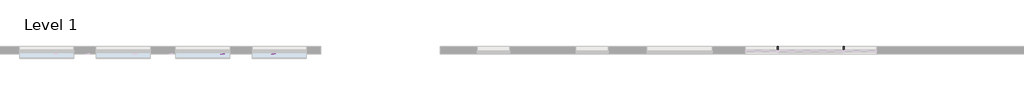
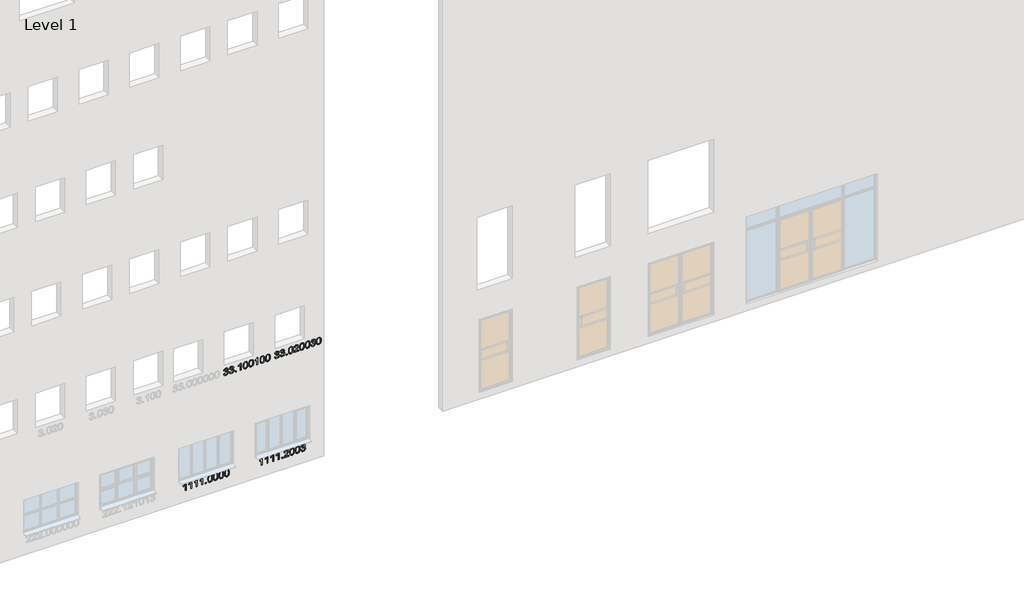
# One storey, part 3 of 3: 6 proxies.
"""IFC4 building model written with IfcOpenShell, lengths in millimetres."""

from ifc_helpers import new_model, si_unit, frame, origin, place, context, project, spatial, polyline, outline, extrude, transform, mapped, element, save
from components import w20054_coupler_standard_fb557c19, w20054_coupler_standard_0fb11666

model = new_model("IFC4")

# Units and contexts
model_context = context("Model", 3, world=origin())
ifc_project = project(units=[si_unit("LENGTHUNIT", "METRE", prefix="MILLI")], contexts=[model_context])

# Site, building, storey
site = spatial("IfcSite", under=ifc_project)
building = spatial("IfcBuilding", under=site)
storey = spatial("IfcBuildingStorey", under=building, Name="Level 1", Elevation=0.0)

# Proxies
placement = place(None, origin())
element("IfcBuildingElementProxy", 1, Name="200mm Arial", ObjectType="200mm Arial", at=placement, inside=storey, context=model_context, shape_type="SweptSolid", body=[
    extrude(outline(polyline([(3021.5066745, -163348.5681121), (2998.8083554, -163342.3509064), (2980.7453494, -163328.6043825), (2968.9363373, -163308.8368566), (2965.0, -163284.5566449), (2969.6107877, -163257.713522), (2983.4431507, -163235.9471706), (3003.8973896, -163221.5261964), (3028.373805, -163216.719205), (3046.3509719, -163219.1227007), (3061.0417262, -163226.3331878), (3071.8574569, -163237.9827843), (3078.2095526, -163253.7036082), (3085.456828, -163241.7351807), (3094.8378188, -163233.1022165), (3105.8497532, -163227.8782922), (3117.9898591, -163226.1369841), (3131.0190131, -163227.9702627), (3143.3246658, -163233.4700985), (3154.0055064, -163242.4341565), (3162.1602239, -163254.6601014), (3167.328966, -163269.1607834), (3169.05188, -163284.9490524), (3165.557001, -163306.8748193), (3155.0723642, -163324.8765116), (3138.2356315, -163338.0344243), (3115.6844652, -163345.4288524), (3112.5452055, -163320.3147748), (3126.2794667, -163315.8634027), (3136.0896532, -163308.0029907), (3141.9757651, -163297.236311), (3143.9378025, -163284.0661356), (3141.9941592, -163270.9204856), (3136.1632296, -163260.423586), (3127.3647186, -163253.5441927), (3116.5183311, -163251.2510616), (3103.4953085, -163254.4148468), (3094.3473095, -163263.9062022), (3088.9394442, -163277.3584205), (3087.1368224, -163292.4047941), (3087.431128, -163296.4269706), (3062.3170505, -163299.2228738), (3065.0639027, -163281.6135889), (3062.4948601, -163265.8191886), (3054.7877323, -163253.0659461), (3043.1565299, -163244.6414484), (3028.8152634, -163241.8332825), (3013.7075762, -163244.6659739), (3001.2486393, -163253.164048), (2992.897718, -163266.4568507), (2990.1140775, -163283.6737281), (2992.1374285, -163298.3460884), (2998.2074814, -163309.597146), (3008.8637966, -163317.8315714), (3024.6459342, -163323.4540345), (3021.5066745, -163348.5681121)])), frame((0.0, 24202.6264647, 0.0), z_axis=(0.0, 1.0, 0.0), x_axis=(0.0, 0.0, 1.0)), (0.0, 0.0, 1.0), 10.0),
    extrude(outline(polyline([(3021.5066745, -163194.7443872), (2998.8083554, -163188.5271814), (2980.7453494, -163174.7806576), (2968.9363373, -163155.0131317), (2965.0, -163130.73292), (2969.6107877, -163103.8897971), (2983.4431507, -163082.1234457), (3003.8973896, -163067.7024715), (3028.373805, -163062.8954801), (3046.3509719, -163065.2989758), (3061.0417262, -163072.5094629), (3071.8574569, -163084.1590594), (3078.2095526, -163099.8798833), (3085.456828, -163087.9114558), (3094.8378188, -163079.2784916), (3105.8497532, -163074.0545673), (3117.9898591, -163072.3132592), (3131.0190131, -163074.1465378), (3143.3246658, -163079.6463736), (3154.0055064, -163088.6104315), (3162.1602239, -163100.8363765), (3167.328966, -163115.3370585), (3169.05188, -163131.1253275), (3165.557001, -163153.0510944), (3155.0723642, -163171.0527867), (3138.2356315, -163184.2106994), (3115.6844652, -163191.6051275), (3112.5452055, -163166.4910499), (3126.2794667, -163162.0396778), (3136.0896532, -163154.1792658), (3141.9757651, -163143.4125861), (3143.9378025, -163130.2424107), (3141.9941592, -163117.0967607), (3136.1632296, -163106.5998611), (3127.3647186, -163099.7204678), (3116.5183311, -163097.4273367), (3103.4953085, -163100.5911219), (3094.3473095, -163110.0824773), (3088.9394442, -163123.5346956), (3087.1368224, -163138.5810692), (3087.431128, -163142.6032457), (3062.3170505, -163145.3991489), (3065.0639027, -163127.789864), (3062.4948601, -163111.9954637), (3054.7877323, -163099.2422212), (3043.1565299, -163090.8177235), (3028.8152634, -163088.0095576), (3013.7075762, -163090.842249), (3001.2486393, -163099.3403231), (2992.897718, -163112.6331258), (2990.1140775, -163129.8500032), (2992.1374285, -163144.5223634), (2998.2074814, -163155.7734211), (3008.8637966, -163164.0078465), (3024.6459342, -163169.6303096), (3021.5066745, -163194.7443872)])), frame((0.0, 24202.6264647, 0.0), z_axis=(0.0, 1.0, 0.0), x_axis=(0.0, 0.0, 1.0)), (0.0, 0.0, 1.0), 10.0),
    extrude(outline(polyline([(-163003.2495459, 24202.6264647), (-163028.3636235, 24202.6264647), (-163028.3636235, 24212.6264647), (-163003.2495459, 24212.6264647), (-163003.2495459, 24202.6264647)])), frame((0.0, 0.0, 2968.1392597), z_axis=(0.0, 0.0, 1.0), x_axis=(1.0, 0.0, 0.0)), (0.0, 0.0, 1.0), 25.1140775),
    extrude(outline(polyline([(2968.1392597, -162868.2613792), (3169.05188, -162868.2613792), (3169.05188, -162884.448187), (3155.8939673, -162893.3202744), (3142.3191217, -162906.7908868), (3118.8237249, -162943.6036118), (3095.0830735, -162943.6036118), (3107.7627396, -162917.1651591), (3124.7098368, -162893.3754567), (2968.1392597, -162893.3754567), (2968.1392597, -162868.2613792)])), frame((0.0, 24202.6264647, 0.0), z_axis=(0.0, 1.0, 0.0), x_axis=(0.0, 0.0, 1.0)), (0.0, 0.0, 1.0), 10.0),
    extrude(outline(polyline([(3066.9768891, -162808.615445), (3018.1098974, -162803.6122499), (2999.2590108, -162797.358256), (2984.1298637, -162788.6026645), (2969.7824659, -162768.7860877), (2965.0, -162742.6909915), (2967.7529836, -162722.3900367), (2976.0119344, -162705.9273174), (2989.8688229, -162693.192469), (3009.4156196, -162684.0751269), (3035.0018123, -162678.5936852), (3066.9768891, -162676.7665379), (3114.1884118, -162681.3282747), (3143.913277, -162693.1004985), (3154.6738253, -162701.7702509), (3162.5771569, -162713.3585337), (3167.4331992, -162727.2154222), (3169.05188, -162742.6909915), (3166.3172905, -162762.8815817), (3158.113522, -162779.3075127), (3144.3118158, -162792.0607552), (3124.7834132, -162801.2332796), (3099.1359068, -162806.7699037), (3066.9768891, -162808.615445)]), holes=[polyline([(3067.02594, -162783.5013675), (3106.0214315, -162780.4602097), (3130.4978469, -162771.3367362), (3140.5778136, -162758.706121), (3143.9378025, -162742.9852971), (3140.1240924, -162726.3815564), (3128.6829624, -162713.2604319), (3105.6412868, -162704.7255696), (3067.02594, -162701.8806155), (3027.5828587, -162704.8236714), (3004.70673, -162713.6528393), (2993.7622407, -162726.7984893), (2990.1140775, -162742.6909915), (2993.7499779, -162758.5834937), (3004.6576791, -162771.7291436), (3027.5215451, -162780.5583115), (3067.02594, -162783.5013675)])]), frame((0.0, 24202.6264647, 0.0), z_axis=(0.0, 1.0, 0.0), x_axis=(0.0, 0.0, 1.0)), (0.0, 0.0, 1.0), 10.0),
    extrude(outline(polyline([(3066.9768891, -162654.7917201), (3018.1098974, -162649.788525), (2999.2590108, -162643.534531), (2984.1298637, -162634.7789396), (2969.7824659, -162614.9623628), (2965.0, -162588.8672666), (2967.7529836, -162568.5663118), (2976.0119344, -162552.1035925), (2989.8688229, -162539.3687441), (3009.4156196, -162530.251402), (3035.0018123, -162524.7699603), (3066.9768891, -162522.942813), (3114.1884118, -162527.5045498), (3143.913277, -162539.2767736), (3154.6738253, -162547.946526), (3162.5771569, -162559.5348088), (3167.4331992, -162573.3916973), (3169.05188, -162588.8672666), (3166.3172905, -162609.0578567), (3158.113522, -162625.4837878), (3144.3118158, -162638.2370303), (3124.7834132, -162647.4095547), (3099.1359068, -162652.9461788), (3066.9768891, -162654.7917201)]), holes=[polyline([(3067.02594, -162629.6776426), (3106.0214315, -162626.6364847), (3130.4978469, -162617.5130113), (3140.5778136, -162604.8823961), (3143.9378025, -162589.1615722), (3140.1240924, -162572.5578314), (3128.6829624, -162559.436707), (3105.6412868, -162550.9018447), (3067.02594, -162548.0568906), (3027.5828587, -162550.9999465), (3004.70673, -162559.8291144), (2993.7622407, -162572.9747644), (2990.1140775, -162588.8672666), (2993.7499779, -162604.7597688), (3004.6576791, -162617.9054187), (3027.5215451, -162626.7345866), (3067.02594, -162629.6776426)])]), frame((0.0, 24202.6264647, 0.0), z_axis=(0.0, 1.0, 0.0), x_axis=(0.0, 0.0, 1.0)), (0.0, 0.0, 1.0), 10.0),
    extrude(outline(polyline([(2968.1392597, -162406.7902044), (3169.05188, -162406.7902044), (3169.05188, -162422.9770122), (3155.8939673, -162431.8490997), (3142.3191217, -162445.319712), (3118.8237249, -162482.132437), (3095.0830735, -162482.132437), (3107.7627396, -162455.6939843), (3124.7098368, -162431.904282), (2968.1392597, -162431.904282), (2968.1392597, -162406.7902044)])), frame((0.0, 24202.6264647, 0.0), z_axis=(0.0, 1.0, 0.0), x_axis=(0.0, 0.0, 1.0)), (0.0, 0.0, 1.0), 10.0),
    extrude(outline(polyline([(3066.9768891, -162347.1442703), (3018.1098974, -162342.1410751), (2999.2590108, -162335.8870812), (2984.1298637, -162327.1314897), (2969.7824659, -162307.3149129), (2965.0, -162281.2198167), (2967.7529836, -162260.918862), (2976.0119344, -162244.4561427), (2989.8688229, -162231.7212943), (3009.4156196, -162222.6039522), (3035.0018123, -162217.1225104), (3066.9768891, -162215.2953632), (3114.1884118, -162219.8570999), (3143.913277, -162231.6293238), (3154.6738253, -162240.2990761), (3162.5771569, -162251.887359), (3167.4331992, -162265.7442475), (3169.05188, -162281.2198167), (3166.3172905, -162301.4104069), (3158.113522, -162317.836338), (3144.3118158, -162330.5895805), (3124.7834132, -162339.7621049), (3099.1359068, -162345.2987289), (3066.9768891, -162347.1442703)]), holes=[polyline([(3067.02594, -162322.0301927), (3106.0214315, -162318.9890349), (3130.4978469, -162309.8655614), (3140.5778136, -162297.2349463), (3143.9378025, -162281.5141223), (3140.1240924, -162264.9103816), (3128.6829624, -162251.7892571), (3105.6412868, -162243.2543948), (3067.02594, -162240.4094407), (3027.5828587, -162243.3524967), (3004.70673, -162252.1816646), (2993.7622407, -162265.3273145), (2990.1140775, -162281.2198167), (2993.7499779, -162297.1123189), (3004.6576791, -162310.2579689), (3027.5215451, -162319.0871368), (3067.02594, -162322.0301927)])]), frame((0.0, 24202.6264647, 0.0), z_axis=(0.0, 1.0, 0.0), x_axis=(0.0, 0.0, 1.0)), (0.0, 0.0, 1.0), 10.0),
    extrude(outline(polyline([(3066.9768891, -162193.3205454), (3018.1098974, -162188.3173502), (2999.2590108, -162182.0633563), (2984.1298637, -162173.3077648), (2969.7824659, -162153.491188), (2965.0, -162127.3960918), (2967.7529836, -162107.095137), (2976.0119344, -162090.6324178), (2989.8688229, -162077.8975694), (3009.4156196, -162068.7802273), (3035.0018123, -162063.2987855), (3066.9768891, -162061.4716383), (3114.1884118, -162066.033375), (3143.913277, -162077.8055989), (3154.6738253, -162086.4753512), (3162.5771569, -162098.0636341), (3167.4331992, -162111.9205226), (3169.05188, -162127.3960918), (3166.3172905, -162147.586682), (3158.113522, -162164.0126131), (3144.3118158, -162176.7658556), (3124.7834132, -162185.93838), (3099.1359068, -162191.475004), (3066.9768891, -162193.3205454)]), holes=[polyline([(3067.02594, -162168.2064678), (3106.0214315, -162165.16531), (3130.4978469, -162156.0418365), (3140.5778136, -162143.4112213), (3143.9378025, -162127.6903974), (3140.1240924, -162111.0866567), (3128.6829624, -162097.9655322), (3105.6412868, -162089.4306699), (3067.02594, -162086.5857158), (3027.5828587, -162089.5287718), (3004.70673, -162098.3579397), (2993.7622407, -162111.5035896), (2990.1140775, -162127.3960918), (2993.7499779, -162143.288594), (3004.6576791, -162156.434244), (3027.5215451, -162165.2634119), (3067.02594, -162168.2064678)])]), frame((0.0, 24202.6264647, 0.0), z_axis=(0.0, 1.0, 0.0), x_axis=(0.0, 0.0, 1.0)), (0.0, 0.0, 1.0), 10.0),
])
element("IfcBuildingElementProxy", 2, Name="200mm Arial", ObjectType="200mm Arial", at=placement, inside=storey, context=model_context, shape_type="SweptSolid", body=[
    extrude(outline(polyline([(3021.5066745, -161948.5681121), (2998.8083554, -161942.3509064), (2980.7453494, -161928.6043825), (2968.9363373, -161908.8368566), (2965.0, -161884.5566449), (2969.6107877, -161857.713522), (2983.4431507, -161835.9471706), (3003.8973896, -161821.5261964), (3028.373805, -161816.719205), (3046.3509719, -161819.1227007), (3061.0417262, -161826.3331878), (3071.8574569, -161837.9827843), (3078.2095526, -161853.7036082), (3085.456828, -161841.7351807), (3094.8378188, -161833.1022165), (3105.8497532, -161827.8782922), (3117.9898591, -161826.1369841), (3131.0190131, -161827.9702627), (3143.3246658, -161833.4700985), (3154.0055064, -161842.4341565), (3162.1602239, -161854.6601014), (3167.328966, -161869.1607834), (3169.05188, -161884.9490524), (3165.557001, -161906.8748193), (3155.0723642, -161924.8765116), (3138.2356315, -161938.0344243), (3115.6844652, -161945.4288524), (3112.5452055, -161920.3147748), (3126.2794667, -161915.8634027), (3136.0896532, -161908.0029907), (3141.9757651, -161897.236311), (3143.9378025, -161884.0661356), (3141.9941592, -161870.9204856), (3136.1632296, -161860.423586), (3127.3647186, -161853.5441927), (3116.5183311, -161851.2510616), (3103.4953085, -161854.4148468), (3094.3473095, -161863.9062022), (3088.9394442, -161877.3584205), (3087.1368224, -161892.4047941), (3087.431128, -161896.4269706), (3062.3170505, -161899.2228738), (3065.0639027, -161881.6135889), (3062.4948601, -161865.8191886), (3054.7877323, -161853.0659461), (3043.1565299, -161844.6414484), (3028.8152634, -161841.8332825), (3013.7075762, -161844.6659739), (3001.2486393, -161853.164048), (2992.897718, -161866.4568507), (2990.1140775, -161883.6737281), (2992.1374285, -161898.3460884), (2998.2074814, -161909.597146), (3008.8637966, -161917.8315714), (3024.6459342, -161923.4540345), (3021.5066745, -161948.5681121)])), frame((0.0, 24202.6264647, 0.0), z_axis=(0.0, 1.0, 0.0), x_axis=(0.0, 0.0, 1.0)), (0.0, 0.0, 1.0), 10.0),
    extrude(outline(polyline([(3021.5066745, -161794.7443872), (2998.8083554, -161788.5271814), (2980.7453494, -161774.7806576), (2968.9363373, -161755.0131317), (2965.0, -161730.73292), (2969.6107877, -161703.8897971), (2983.4431507, -161682.1234457), (3003.8973896, -161667.7024715), (3028.373805, -161662.8954801), (3046.3509719, -161665.2989758), (3061.0417262, -161672.5094629), (3071.8574569, -161684.1590594), (3078.2095526, -161699.8798833), (3085.456828, -161687.9114558), (3094.8378188, -161679.2784916), (3105.8497532, -161674.0545673), (3117.9898591, -161672.3132592), (3131.0190131, -161674.1465378), (3143.3246658, -161679.6463736), (3154.0055064, -161688.6104315), (3162.1602239, -161700.8363765), (3167.328966, -161715.3370585), (3169.05188, -161731.1253275), (3165.557001, -161753.0510944), (3155.0723642, -161771.0527867), (3138.2356315, -161784.2106994), (3115.6844652, -161791.6051275), (3112.5452055, -161766.4910499), (3126.2794667, -161762.0396778), (3136.0896532, -161754.1792658), (3141.9757651, -161743.4125861), (3143.9378025, -161730.2424107), (3141.9941592, -161717.0967607), (3136.1632296, -161706.5998611), (3127.3647186, -161699.7204678), (3116.5183311, -161697.4273367), (3103.4953085, -161700.5911219), (3094.3473095, -161710.0824773), (3088.9394442, -161723.5346956), (3087.1368224, -161738.5810692), (3087.431128, -161742.6032457), (3062.3170505, -161745.3991489), (3065.0639027, -161727.789864), (3062.4948601, -161711.9954637), (3054.7877323, -161699.2422212), (3043.1565299, -161690.8177235), (3028.8152634, -161688.0095576), (3013.7075762, -161690.842249), (3001.2486393, -161699.3403231), (2992.897718, -161712.6331258), (2990.1140775, -161729.8500032), (2992.1374285, -161744.5223634), (2998.2074814, -161755.7734211), (3008.8637966, -161764.0078465), (3024.6459342, -161769.6303096), (3021.5066745, -161794.7443872)])), frame((0.0, 24202.6264647, 0.0), z_axis=(0.0, 1.0, 0.0), x_axis=(0.0, 0.0, 1.0)), (0.0, 0.0, 1.0), 10.0),
    extrude(outline(polyline([(-161603.2495459, 24202.6264647), (-161628.3636235, 24202.6264647), (-161628.3636235, 24212.6264647), (-161603.2495459, 24212.6264647), (-161603.2495459, 24202.6264647)])), frame((0.0, 0.0, 2968.1392597), z_axis=(0.0, 0.0, 1.0), x_axis=(1.0, 0.0, 0.0)), (0.0, 0.0, 1.0), 25.1140775),
    extrude(outline(polyline([(3066.9768891, -161562.4391699), (3018.1098974, -161557.4359748), (2999.2590108, -161551.1819809), (2984.1298637, -161542.4263894), (2969.7824659, -161522.6098126), (2965.0, -161496.5147164), (2967.7529836, -161476.2137616), (2976.0119344, -161459.7510423), (2989.8688229, -161447.0161939), (3009.4156196, -161437.8988518), (3035.0018123, -161432.4174101), (3066.9768891, -161430.5902629), (3114.1884118, -161435.1519996), (3143.913277, -161446.9242234), (3154.6738253, -161455.5939758), (3162.5771569, -161467.1822587), (3167.4331992, -161481.0391471), (3169.05188, -161496.5147164), (3166.3172905, -161516.7053066), (3158.113522, -161533.1312377), (3144.3118158, -161545.8844802), (3124.7834132, -161555.0570046), (3099.1359068, -161560.5936286), (3066.9768891, -161562.4391699)]), holes=[polyline([(3067.02594, -161537.3250924), (3106.0214315, -161534.2839346), (3130.4978469, -161525.1604611), (3140.5778136, -161512.5298459), (3143.9378025, -161496.809022), (3140.1240924, -161480.2052813), (3128.6829624, -161467.0841568), (3105.6412868, -161458.5492945), (3067.02594, -161455.7043404), (3027.5828587, -161458.6473964), (3004.70673, -161467.4765642), (2993.7622407, -161480.6222142), (2990.1140775, -161496.5147164), (2993.7499779, -161512.4072186), (3004.6576791, -161525.5528686), (3027.5215451, -161534.3820364), (3067.02594, -161537.3250924)])]), frame((0.0, 24202.6264647, 0.0), z_axis=(0.0, 1.0, 0.0), x_axis=(0.0, 0.0, 1.0)), (0.0, 0.0, 1.0), 10.0),
    extrude(outline(polyline([(2993.2533372, -161279.9057976), (2993.2533372, -161378.5472233), (3006.0311052, -161367.2164578), (3030.1886895, -161338.3254585), (3064.5979188, -161302.3465993), (3089.221487, -161287.5086922), (3113.0357149, -161283.0450573), (3134.9369563, -161287.1837298), (3152.9631741, -161299.5997471), (3165.0297035, -161319.115887), (3169.05188, -161344.5549269), (3165.4343737, -161369.8100259), (3154.5818548, -161389.3629539), (3136.8376799, -161402.526998), (3112.5452055, -161408.615445), (3109.4059458, -161383.5013675), (3123.8391828, -161380.7851721), (3134.765278, -161372.9308915), (3141.6446714, -161360.7601288), (3143.9378025, -161345.0944872), (3141.5894891, -161330.1768723), (3134.5445488, -161318.3862543), (3124.0905688, -161310.7159147), (3111.5151359, -161308.1591349), (3097.4865692, -161310.8691989), (3083.065595, -161318.999391), (3041.2251494, -161362.3604155), (3012.1134208, -161393.8020633), (2985.4542389, -161409.0569034), (2968.1392597, -161411.7547047), (2968.1392597, -161279.9057976), (2993.2533372, -161279.9057976)])), frame((0.0, 24202.6264647, 0.0), z_axis=(0.0, 1.0, 0.0), x_axis=(0.0, 0.0, 1.0)), (0.0, 0.0, 1.0), 10.0),
    extrude(outline(polyline([(3066.9768891, -161254.7917201), (3018.1098974, -161249.788525), (2999.2590108, -161243.534531), (2984.1298637, -161234.7789396), (2969.7824659, -161214.9623628), (2965.0, -161188.8672666), (2967.7529836, -161168.5663118), (2976.0119344, -161152.1035925), (2989.8688229, -161139.3687441), (3009.4156196, -161130.251402), (3035.0018123, -161124.7699603), (3066.9768891, -161122.942813), (3114.1884118, -161127.5045498), (3143.913277, -161139.2767736), (3154.6738253, -161147.946526), (3162.5771569, -161159.5348088), (3167.4331992, -161173.3916973), (3169.05188, -161188.8672666), (3166.3172905, -161209.0578567), (3158.113522, -161225.4837878), (3144.3118158, -161238.2370303), (3124.7834132, -161247.4095547), (3099.1359068, -161252.9461788), (3066.9768891, -161254.7917201)]), holes=[polyline([(3067.02594, -161229.6776426), (3106.0214315, -161226.6364847), (3130.4978469, -161217.5130113), (3140.5778136, -161204.8823961), (3143.9378025, -161189.1615722), (3140.1240924, -161172.5578314), (3128.6829624, -161159.436707), (3105.6412868, -161150.9018447), (3067.02594, -161148.0568906), (3027.5828587, -161150.9999465), (3004.70673, -161159.8291144), (2993.7622407, -161172.9747644), (2990.1140775, -161188.8672666), (2993.7499779, -161204.7597688), (3004.6576791, -161217.9054187), (3027.5215451, -161226.7345866), (3067.02594, -161229.6776426)])]), frame((0.0, 24202.6264647, 0.0), z_axis=(0.0, 1.0, 0.0), x_axis=(0.0, 0.0, 1.0)), (0.0, 0.0, 1.0), 10.0),
    extrude(outline(polyline([(3066.9768891, -161100.9679952), (3018.1098974, -161095.9648001), (2999.2590108, -161089.7108061), (2984.1298637, -161080.9552146), (2969.7824659, -161061.1386378), (2965.0, -161035.0435416), (2967.7529836, -161014.7425869), (2976.0119344, -160998.2798676), (2989.8688229, -160985.5450192), (3009.4156196, -160976.4276771), (3035.0018123, -160970.9462354), (3066.9768891, -160969.1190881), (3114.1884118, -160973.6808249), (3143.913277, -160985.4530487), (3154.6738253, -160994.1228011), (3162.5771569, -161005.7110839), (3167.4331992, -161019.5679724), (3169.05188, -161035.0435416), (3166.3172905, -161055.2341318), (3158.113522, -161071.6600629), (3144.3118158, -161084.4133054), (3124.7834132, -161093.5858298), (3099.1359068, -161099.1224538), (3066.9768891, -161100.9679952)]), holes=[polyline([(3067.02594, -161075.8539176), (3106.0214315, -161072.8127598), (3130.4978469, -161063.6892863), (3140.5778136, -161051.0586712), (3143.9378025, -161035.3378472), (3140.1240924, -161018.7341065), (3128.6829624, -161005.612982), (3105.6412868, -160997.0781197), (3067.02594, -160994.2331657), (3027.5828587, -160997.1762216), (3004.70673, -161006.0053895), (2993.7622407, -161019.1510395), (2990.1140775, -161035.0435416), (2993.7499779, -161050.9360438), (3004.6576791, -161064.0816938), (3027.5215451, -161072.9108617), (3067.02594, -161075.8539176)])]), frame((0.0, 24202.6264647, 0.0), z_axis=(0.0, 1.0, 0.0), x_axis=(0.0, 0.0, 1.0)), (0.0, 0.0, 1.0), 10.0),
    extrude(outline(polyline([(3021.5066745, -160947.1442703), (2998.8083554, -160940.9270645), (2980.7453494, -160927.1805407), (2968.9363373, -160907.4130148), (2965.0, -160883.1328031), (2969.6107877, -160856.2896802), (2983.4431507, -160834.5233288), (3003.8973896, -160820.1023546), (3028.373805, -160815.2953632), (3046.3509719, -160817.6988589), (3061.0417262, -160824.909346), (3071.8574569, -160836.5589425), (3078.2095526, -160852.2797664), (3085.456828, -160840.3113389), (3094.8378188, -160831.6783747), (3105.8497532, -160826.4544504), (3117.9898591, -160824.7131423), (3131.0190131, -160826.5464209), (3143.3246658, -160832.0462567), (3154.0055064, -160841.0103147), (3162.1602239, -160853.2362596), (3167.328966, -160867.7369416), (3169.05188, -160883.5252106), (3165.557001, -160905.4509775), (3155.0723642, -160923.4526698), (3138.2356315, -160936.6105825), (3115.6844652, -160944.0050106), (3112.5452055, -160918.890933), (3126.2794667, -160914.4395609), (3136.0896532, -160906.5791489), (3141.9757651, -160895.8124692), (3143.9378025, -160882.6422938), (3141.9941592, -160869.4966438), (3136.1632296, -160858.9997442), (3127.3647186, -160852.1203509), (3116.5183311, -160849.8272198), (3103.4953085, -160852.991005), (3094.3473095, -160862.4823604), (3088.9394442, -160875.9345787), (3087.1368224, -160890.9809523), (3087.431128, -160895.0031288), (3062.3170505, -160897.799032), (3065.0639027, -160880.1897471), (3062.4948601, -160864.3953468), (3054.7877323, -160851.6421043), (3043.1565299, -160843.2176066), (3028.8152634, -160840.4094407), (3013.7075762, -160843.2421321), (3001.2486393, -160851.7402062), (2992.897718, -160865.0330089), (2990.1140775, -160882.2498863), (2992.1374285, -160896.9222466), (2998.2074814, -160908.1733042), (3008.8637966, -160916.4077296), (3024.6459342, -160922.0301927), (3021.5066745, -160947.1442703)])), frame((0.0, 24202.6264647, 0.0), z_axis=(0.0, 1.0, 0.0), x_axis=(0.0, 0.0, 1.0)), (0.0, 0.0, 1.0), 10.0),
    extrude(outline(polyline([(3066.9768891, -160793.3205454), (3018.1098974, -160788.3173502), (2999.2590108, -160782.0633563), (2984.1298637, -160773.3077648), (2969.7824659, -160753.491188), (2965.0, -160727.3960918), (2967.7529836, -160707.095137), (2976.0119344, -160690.6324178), (2989.8688229, -160677.8975694), (3009.4156196, -160668.7802273), (3035.0018123, -160663.2987855), (3066.9768891, -160661.4716383), (3114.1884118, -160666.033375), (3143.913277, -160677.8055989), (3154.6738253, -160686.4753512), (3162.5771569, -160698.0636341), (3167.4331992, -160711.9205226), (3169.05188, -160727.3960918), (3166.3172905, -160747.586682), (3158.113522, -160764.0126131), (3144.3118158, -160776.7658556), (3124.7834132, -160785.93838), (3099.1359068, -160791.475004), (3066.9768891, -160793.3205454)]), holes=[polyline([(3067.02594, -160768.2064678), (3106.0214315, -160765.16531), (3130.4978469, -160756.0418365), (3140.5778136, -160743.4112213), (3143.9378025, -160727.6903974), (3140.1240924, -160711.0866567), (3128.6829624, -160697.9655322), (3105.6412868, -160689.4306699), (3067.02594, -160686.5857158), (3027.5828587, -160689.5287718), (3004.70673, -160698.3579397), (2993.7622407, -160711.5035896), (2990.1140775, -160727.3960918), (2993.7499779, -160743.288594), (3004.6576791, -160756.434244), (3027.5215451, -160765.2634119), (3067.02594, -160768.2064678)])]), frame((0.0, 24202.6264647, 0.0), z_axis=(0.0, 1.0, 0.0), x_axis=(0.0, 0.0, 1.0)), (0.0, 0.0, 1.0), 10.0),
])
element("IfcBuildingElementProxy", 3, Name="200mm Arial", ObjectType="200mm Arial", at=placement, inside=storey, context=model_context, shape_type="SweptSolid", body=[
    extrude(outline(polyline([(3.1392597, -164383.3903213), (204.05188, -164383.3903213), (204.05188, -164399.5771291), (190.8939673, -164408.4492165), (177.3191217, -164421.9198289), (153.8237249, -164458.7325539), (130.0830735, -164458.7325539), (142.7627396, -164432.2941012), (159.7098368, -164408.5043988), (3.1392597, -164408.5043988), (3.1392597, -164383.3903213)])), frame((0.0, 24202.6264647, 0.0), z_axis=(0.0, 1.0, 0.0), x_axis=(0.0, 0.0, 1.0)), (0.0, 0.0, 1.0), 10.0),
    extrude(outline(polyline([(3.1392597, -164229.5665964), (204.05188, -164229.5665964), (204.05188, -164245.7534042), (190.8939673, -164254.6254916), (177.3191217, -164268.096104), (153.8237249, -164304.908829), (130.0830735, -164304.908829), (142.7627396, -164278.4703763), (159.7098368, -164254.6806739), (3.1392597, -164254.6806739), (3.1392597, -164229.5665964)])), frame((0.0, 24202.6264647, 0.0), z_axis=(0.0, 1.0, 0.0), x_axis=(0.0, 0.0, 1.0)), (0.0, 0.0, 1.0), 10.0),
    extrude(outline(polyline([(3.1392597, -164075.7428715), (204.05188, -164075.7428715), (204.05188, -164091.9296793), (190.8939673, -164100.8017667), (177.3191217, -164114.2723791), (153.8237249, -164151.0851041), (130.0830735, -164151.0851041), (142.7627396, -164124.6466514), (159.7098368, -164100.856949), (3.1392597, -164100.856949), (3.1392597, -164075.7428715)])), frame((0.0, 24202.6264647, 0.0), z_axis=(0.0, 1.0, 0.0), x_axis=(0.0, 0.0, 1.0)), (0.0, 0.0, 1.0), 10.0),
    extrude(outline(polyline([(3.1392597, -163921.9191466), (204.05188, -163921.9191466), (204.05188, -163938.1059543), (190.8939673, -163946.9780418), (177.3191217, -163960.4486542), (153.8237249, -163997.2613792), (130.0830735, -163997.2613792), (142.7627396, -163970.8229264), (159.7098368, -163947.0332241), (3.1392597, -163947.0332241), (3.1392597, -163921.9191466)])), frame((0.0, 24202.6264647, 0.0), z_axis=(0.0, 1.0, 0.0), x_axis=(0.0, 0.0, 1.0)), (0.0, 0.0, 1.0), 10.0),
    extrude(outline(polyline([(-163824.6020961, 24202.6264647), (-163849.7161736, 24202.6264647), (-163849.7161736, 24212.6264647), (-163824.6020961, 24212.6264647), (-163824.6020961, 24202.6264647)])), frame((0.0, 0.0, 3.1392597), z_axis=(0.0, 0.0, 1.0), x_axis=(1.0, 0.0, 0.0)), (0.0, 0.0, 1.0), 25.1140775),
    extrude(outline(polyline([(101.9768891, -163783.7917201), (53.1098974, -163778.788525), (34.2590108, -163772.534531), (19.1298637, -163763.7789396), (4.7824659, -163743.9623628), (0.0, -163717.8672666), (2.7529836, -163697.5663118), (11.0119344, -163681.1035925), (24.8688229, -163668.3687441), (44.4156196, -163659.251402), (70.0018123, -163653.7699603), (101.9768891, -163651.942813), (149.1884118, -163656.5045498), (178.913277, -163668.2767736), (189.6738253, -163676.946526), (197.5771569, -163688.5348088), (202.4331992, -163702.3916973), (204.05188, -163717.8672666), (201.3172905, -163738.0578567), (193.113522, -163754.4837878), (179.3118158, -163767.2370303), (159.7834132, -163776.4095547), (134.1359068, -163781.9461788), (101.9768891, -163783.7917201)]), holes=[polyline([(102.02594, -163758.6776426), (141.0214315, -163755.6364847), (165.4978469, -163746.5130113), (175.5778136, -163733.8823961), (178.9378025, -163718.1615722), (175.1240924, -163701.5578314), (163.6829624, -163688.436707), (140.6412868, -163679.9018447), (102.02594, -163677.0568906), (62.5828587, -163679.9999465), (39.70673, -163688.8291144), (28.7622407, -163701.9747644), (25.1140775, -163717.8672666), (28.7499779, -163733.7597688), (39.6576791, -163746.9054187), (62.5215451, -163755.7345866), (102.02594, -163758.6776426)])]), frame((0.0, 24202.6264647, 0.0), z_axis=(0.0, 1.0, 0.0), x_axis=(0.0, 0.0, 1.0)), (0.0, 0.0, 1.0), 10.0),
    extrude(outline(polyline([(101.9768891, -163629.9679952), (53.1098974, -163624.9648001), (34.2590108, -163618.7108061), (19.1298637, -163609.9552146), (4.7824659, -163590.1386378), (0.0, -163564.0435416), (2.7529836, -163543.7425869), (11.0119344, -163527.2798676), (24.8688229, -163514.5450192), (44.4156196, -163505.4276771), (70.0018123, -163499.9462354), (101.9768891, -163498.1190881), (149.1884118, -163502.6808249), (178.913277, -163514.4530487), (189.6738253, -163523.1228011), (197.5771569, -163534.7110839), (202.4331992, -163548.5679724), (204.05188, -163564.0435416), (201.3172905, -163584.2341318), (193.113522, -163600.6600629), (179.3118158, -163613.4133054), (159.7834132, -163622.5858298), (134.1359068, -163628.1224538), (101.9768891, -163629.9679952)]), holes=[polyline([(102.02594, -163604.8539176), (141.0214315, -163601.8127598), (165.4978469, -163592.6892863), (175.5778136, -163580.0586712), (178.9378025, -163564.3378472), (175.1240924, -163547.7341065), (163.6829624, -163534.612982), (140.6412868, -163526.0781197), (102.02594, -163523.2331657), (62.5828587, -163526.1762216), (39.70673, -163535.0053895), (28.7622407, -163548.1510395), (25.1140775, -163564.0435416), (28.7499779, -163579.9360438), (39.6576791, -163593.0816938), (62.5215451, -163601.9108617), (102.02594, -163604.8539176)])]), frame((0.0, 24202.6264647, 0.0), z_axis=(0.0, 1.0, 0.0), x_axis=(0.0, 0.0, 1.0)), (0.0, 0.0, 1.0), 10.0),
    extrude(outline(polyline([(101.9768891, -163476.1442703), (53.1098974, -163471.1410751), (34.2590108, -163464.8870812), (19.1298637, -163456.1314897), (4.7824659, -163436.3149129), (0.0, -163410.2198167), (2.7529836, -163389.918862), (11.0119344, -163373.4561427), (24.8688229, -163360.7212943), (44.4156196, -163351.6039522), (70.0018123, -163346.1225104), (101.9768891, -163344.2953632), (149.1884118, -163348.8570999), (178.913277, -163360.6293238), (189.6738253, -163369.2990761), (197.5771569, -163380.887359), (202.4331992, -163394.7442475), (204.05188, -163410.2198167), (201.3172905, -163430.4104069), (193.113522, -163446.836338), (179.3118158, -163459.5895805), (159.7834132, -163468.7621049), (134.1359068, -163474.2987289), (101.9768891, -163476.1442703)]), holes=[polyline([(102.02594, -163451.0301927), (141.0214315, -163447.9890349), (165.4978469, -163438.8655614), (175.5778136, -163426.2349463), (178.9378025, -163410.5141223), (175.1240924, -163393.9103816), (163.6829624, -163380.7892571), (140.6412868, -163372.2543948), (102.02594, -163369.4094407), (62.5828587, -163372.3524967), (39.70673, -163381.1816646), (28.7622407, -163394.3273145), (25.1140775, -163410.2198167), (28.7499779, -163426.1123189), (39.6576791, -163439.2579689), (62.5215451, -163448.0871368), (102.02594, -163451.0301927)])]), frame((0.0, 24202.6264647, 0.0), z_axis=(0.0, 1.0, 0.0), x_axis=(0.0, 0.0, 1.0)), (0.0, 0.0, 1.0), 10.0),
    extrude(outline(polyline([(101.9768891, -163322.3205454), (53.1098974, -163317.3173502), (34.2590108, -163311.0633563), (19.1298637, -163302.3077648), (4.7824659, -163282.491188), (0.0, -163256.3960918), (2.7529836, -163236.095137), (11.0119344, -163219.6324178), (24.8688229, -163206.8975694), (44.4156196, -163197.7802273), (70.0018123, -163192.2987855), (101.9768891, -163190.4716383), (149.1884118, -163195.033375), (178.913277, -163206.8055989), (189.6738253, -163215.4753512), (197.5771569, -163227.0636341), (202.4331992, -163240.9205226), (204.05188, -163256.3960918), (201.3172905, -163276.586682), (193.113522, -163293.0126131), (179.3118158, -163305.7658556), (159.7834132, -163314.93838), (134.1359068, -163320.475004), (101.9768891, -163322.3205454)]), holes=[polyline([(102.02594, -163297.2064678), (141.0214315, -163294.16531), (165.4978469, -163285.0418365), (175.5778136, -163272.4112213), (178.9378025, -163256.6903974), (175.1240924, -163240.0866567), (163.6829624, -163226.9655322), (140.6412868, -163218.4306699), (102.02594, -163215.5857158), (62.5828587, -163218.5287718), (39.70673, -163227.3579397), (28.7622407, -163240.5035896), (25.1140775, -163256.3960918), (28.7499779, -163272.288594), (39.6576791, -163285.434244), (62.5215451, -163294.2634119), (102.02594, -163297.2064678)])]), frame((0.0, 24202.6264647, 0.0), z_axis=(0.0, 1.0, 0.0), x_axis=(0.0, 0.0, 1.0)), (0.0, 0.0, 1.0), 10.0),
])
element("IfcBuildingElementProxy", 4, Name="200mm Arial", ObjectType="200mm Arial", at=placement, inside=storey, context=model_context, shape_type="SweptSolid", body=[
    extrude(outline(polyline([(3.1392597, -162283.3903213), (204.05188, -162283.3903213), (204.05188, -162299.5771291), (190.8939673, -162308.4492165), (177.3191217, -162321.9198289), (153.8237249, -162358.7325539), (130.0830735, -162358.7325539), (142.7627396, -162332.2941012), (159.7098368, -162308.5043988), (3.1392597, -162308.5043988), (3.1392597, -162283.3903213)])), frame((0.0, 24202.6264647, 0.0), z_axis=(0.0, 1.0, 0.0), x_axis=(0.0, 0.0, 1.0)), (0.0, 0.0, 1.0), 10.0),
    extrude(outline(polyline([(3.1392597, -162129.5665964), (204.05188, -162129.5665964), (204.05188, -162145.7534042), (190.8939673, -162154.6254916), (177.3191217, -162168.096104), (153.8237249, -162204.908829), (130.0830735, -162204.908829), (142.7627396, -162178.4703763), (159.7098368, -162154.6806739), (3.1392597, -162154.6806739), (3.1392597, -162129.5665964)])), frame((0.0, 24202.6264647, 0.0), z_axis=(0.0, 1.0, 0.0), x_axis=(0.0, 0.0, 1.0)), (0.0, 0.0, 1.0), 10.0),
    extrude(outline(polyline([(3.1392597, -161975.7428715), (204.05188, -161975.7428715), (204.05188, -161991.9296793), (190.8939673, -162000.8017667), (177.3191217, -162014.2723791), (153.8237249, -162051.0851041), (130.0830735, -162051.0851041), (142.7627396, -162024.6466514), (159.7098368, -162000.856949), (3.1392597, -162000.856949), (3.1392597, -161975.7428715)])), frame((0.0, 24202.6264647, 0.0), z_axis=(0.0, 1.0, 0.0), x_axis=(0.0, 0.0, 1.0)), (0.0, 0.0, 1.0), 10.0),
    extrude(outline(polyline([(3.1392597, -161821.9191466), (204.05188, -161821.9191466), (204.05188, -161838.1059543), (190.8939673, -161846.9780418), (177.3191217, -161860.4486542), (153.8237249, -161897.2613792), (130.0830735, -161897.2613792), (142.7627396, -161870.8229264), (159.7098368, -161847.0332241), (3.1392597, -161847.0332241), (3.1392597, -161821.9191466)])), frame((0.0, 24202.6264647, 0.0), z_axis=(0.0, 1.0, 0.0), x_axis=(0.0, 0.0, 1.0)), (0.0, 0.0, 1.0), 10.0),
    extrude(outline(polyline([(-161724.6020961, 24202.6264647), (-161749.7161736, 24202.6264647), (-161749.7161736, 24212.6264647), (-161724.6020961, 24212.6264647), (-161724.6020961, 24202.6264647)])), frame((0.0, 0.0, 3.1392597), z_axis=(0.0, 0.0, 1.0), x_axis=(1.0, 0.0, 0.0)), (0.0, 0.0, 1.0), 25.1140775),
    extrude(outline(polyline([(28.2533372, -161555.0820727), (28.2533372, -161653.7234984), (41.0311052, -161642.3927329), (65.1886895, -161613.5017336), (99.5979188, -161577.5228744), (124.221487, -161562.6849673), (148.0357149, -161558.2213324), (169.9369563, -161562.3600049), (187.9631741, -161574.7760222), (200.0297035, -161594.292162), (204.05188, -161619.731202), (200.4343737, -161644.986301), (189.5818548, -161664.539229), (171.8376799, -161677.7032731), (147.5452055, -161683.7917201), (144.4059458, -161658.6776426), (158.8391828, -161655.9614472), (169.765278, -161648.1071666), (176.6446714, -161635.9364039), (178.9378025, -161620.2707623), (176.5894891, -161605.3531474), (169.5445488, -161593.5625294), (159.0905688, -161585.8921898), (146.5151359, -161583.33541), (132.4865692, -161586.045474), (118.065595, -161594.1756661), (76.2251494, -161637.5366906), (47.1134208, -161668.9783384), (20.4542389, -161684.2331785), (3.1392597, -161686.9309798), (3.1392597, -161555.0820727), (28.2533372, -161555.0820727)])), frame((0.0, 24202.6264647, 0.0), z_axis=(0.0, 1.0, 0.0), x_axis=(0.0, 0.0, 1.0)), (0.0, 0.0, 1.0), 10.0),
    extrude(outline(polyline([(101.9768891, -161529.9679952), (53.1098974, -161524.9648001), (34.2590108, -161518.7108061), (19.1298637, -161509.9552146), (4.7824659, -161490.1386378), (0.0, -161464.0435416), (2.7529836, -161443.7425869), (11.0119344, -161427.2798676), (24.8688229, -161414.5450192), (44.4156196, -161405.4276771), (70.0018123, -161399.9462354), (101.9768891, -161398.1190881), (149.1884118, -161402.6808249), (178.913277, -161414.4530487), (189.6738253, -161423.1228011), (197.5771569, -161434.7110839), (202.4331992, -161448.5679724), (204.05188, -161464.0435416), (201.3172905, -161484.2341318), (193.113522, -161500.6600629), (179.3118158, -161513.4133054), (159.7834132, -161522.5858298), (134.1359068, -161528.1224538), (101.9768891, -161529.9679952)]), holes=[polyline([(102.02594, -161504.8539176), (141.0214315, -161501.8127598), (165.4978469, -161492.6892863), (175.5778136, -161480.0586712), (178.9378025, -161464.3378472), (175.1240924, -161447.7341065), (163.6829624, -161434.612982), (140.6412868, -161426.0781197), (102.02594, -161423.2331657), (62.5828587, -161426.1762216), (39.70673, -161435.0053895), (28.7622407, -161448.1510395), (25.1140775, -161464.0435416), (28.7499779, -161479.9360438), (39.6576791, -161493.0816938), (62.5215451, -161501.9108617), (102.02594, -161504.8539176)])]), frame((0.0, 24202.6264647, 0.0), z_axis=(0.0, 1.0, 0.0), x_axis=(0.0, 0.0, 1.0)), (0.0, 0.0, 1.0), 10.0),
    extrude(outline(polyline([(101.9768891, -161376.1442703), (53.1098974, -161371.1410751), (34.2590108, -161364.8870812), (19.1298637, -161356.1314897), (4.7824659, -161336.3149129), (0.0, -161310.2198167), (2.7529836, -161289.918862), (11.0119344, -161273.4561427), (24.8688229, -161260.7212943), (44.4156196, -161251.6039522), (70.0018123, -161246.1225104), (101.9768891, -161244.2953632), (149.1884118, -161248.8570999), (178.913277, -161260.6293238), (189.6738253, -161269.2990761), (197.5771569, -161280.887359), (202.4331992, -161294.7442475), (204.05188, -161310.2198167), (201.3172905, -161330.4104069), (193.113522, -161346.836338), (179.3118158, -161359.5895805), (159.7834132, -161368.7621049), (134.1359068, -161374.2987289), (101.9768891, -161376.1442703)]), holes=[polyline([(102.02594, -161351.0301927), (141.0214315, -161347.9890349), (165.4978469, -161338.8655614), (175.5778136, -161326.2349463), (178.9378025, -161310.5141223), (175.1240924, -161293.9103816), (163.6829624, -161280.7892571), (140.6412868, -161272.2543948), (102.02594, -161269.4094407), (62.5828587, -161272.3524967), (39.70673, -161281.1816646), (28.7622407, -161294.3273145), (25.1140775, -161310.2198167), (28.7499779, -161326.1123189), (39.6576791, -161339.2579689), (62.5215451, -161348.0871368), (102.02594, -161351.0301927)])]), frame((0.0, 24202.6264647, 0.0), z_axis=(0.0, 1.0, 0.0), x_axis=(0.0, 0.0, 1.0)), (0.0, 0.0, 1.0), 10.0),
    extrude(outline(polyline([(56.5066745, -161222.3205454), (33.8083554, -161216.1033396), (15.7453494, -161202.3568157), (3.9363373, -161182.5892899), (0.0, -161158.3090782), (4.6107877, -161131.4659553), (18.4431507, -161109.6996039), (38.8973896, -161095.2786297), (63.373805, -161090.4716383), (81.3509719, -161092.875134), (96.0417262, -161100.0856211), (106.8574569, -161111.7352176), (113.2095526, -161127.4560415), (120.456828, -161115.487614), (129.8378188, -161106.8546498), (140.8497532, -161101.6307255), (152.9898591, -161099.8894174), (166.0190131, -161101.722696), (178.3246658, -161107.2225318), (189.0055064, -161116.1865897), (197.1602239, -161128.4125347), (202.328966, -161142.9132167), (204.05188, -161158.7014857), (200.557001, -161180.6272526), (190.0723642, -161198.6289449), (173.2356315, -161211.7868576), (150.6844652, -161219.1812857), (147.5452055, -161194.0672081), (161.2794667, -161189.615836), (171.0896532, -161181.755424), (176.9757651, -161170.9887443), (178.9378025, -161157.8185689), (176.9941592, -161144.6729189), (171.1632296, -161134.1760193), (162.3647186, -161127.296626), (151.5183311, -161125.0034949), (138.4953085, -161128.1672801), (129.3473095, -161137.6586355), (123.9394442, -161151.1108538), (122.1368224, -161166.1572274), (122.431128, -161170.1794039), (97.3170505, -161172.9753071), (100.0639027, -161155.3660222), (97.4948601, -161139.5716219), (89.7877323, -161126.8183794), (78.1565299, -161118.3938817), (63.8152634, -161115.5857158), (48.7075762, -161118.4184072), (36.2486393, -161126.9164813), (27.897718, -161140.209284), (25.1140775, -161157.4261614), (27.1374285, -161172.0985216), (33.2074814, -161183.3495793), (43.8637966, -161191.5840047), (59.6459342, -161197.2064678), (56.5066745, -161222.3205454)])), frame((0.0, 24202.6264647, 0.0), z_axis=(0.0, 1.0, 0.0), x_axis=(0.0, 0.0, 1.0)), (0.0, 0.0, 1.0), 10.0),
])
w20054_coupler_standard_shape = w20054_coupler_standard_fb557c19(model_context)
element("IfcBuildingElementProxy", 5, Name="W20054 Coupler : Standard", ObjectType="W20054 Coupler : Standard", at=placement, inside=storey, context=model_context, shape_type="MappedRepresentation", body=[
    mapped(w20054_coupler_standard_shape, transform((-146121.6821009, 24312.6264647, -345.1174886), x_axis=(-1.0, 0.0, 0.0), y_axis=(0.0, -1.0, 0.0), z_axis=(0.0, 0.0, 1.0))),
])
w20054_coupler_standard_2_shape = w20054_coupler_standard_0fb11666(model_context)
element("IfcBuildingElementProxy", 6, Name="W20054 Coupler : Standard", ObjectType="W20054 Coupler : Standard", at=placement, inside=storey, context=model_context, shape_type="MappedRepresentation", body=[
    mapped(w20054_coupler_standard_2_shape, transform((-147931.6821009, 24312.6264647, -349.6158349), x_axis=(-1.0, 0.0, 0.0), y_axis=(0.0, -1.0, 0.0), z_axis=(0.0, 0.0, 1.0))),
])

save(model, "model.ifc")
